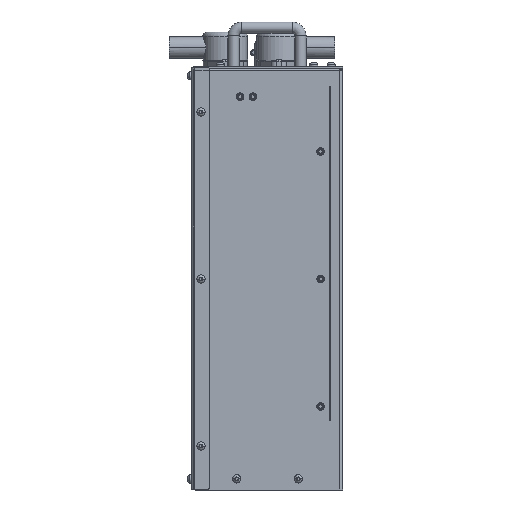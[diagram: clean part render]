
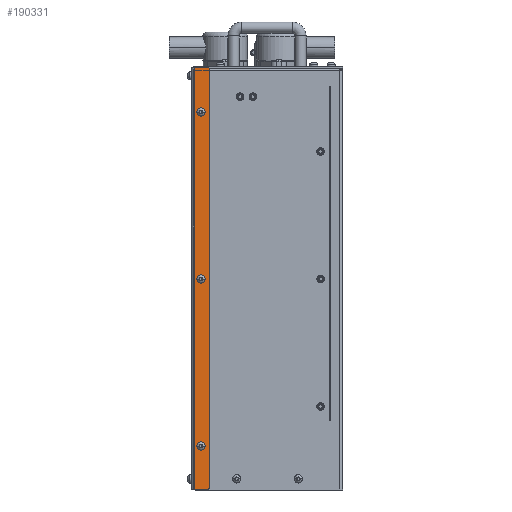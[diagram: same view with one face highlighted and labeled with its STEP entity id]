
A CAD part, left-side view. The second image highlights one B-rep face of the part: STEP entity #190331.
In plain terms, the highlighted planar face has unit normal (-1, 0, 0).
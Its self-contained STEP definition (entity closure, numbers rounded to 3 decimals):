
#5842 = DIRECTION ( 'NONE',  ( 0., 1., 0. ) ) ;
#8820 = DIRECTION ( 'NONE',  ( 1., 0., 0. ) ) ;
#12984 = LINE ( 'NONE', #150596, #265106 ) ;
#17766 = DIRECTION ( 'NONE',  ( 0., 0., 1. ) ) ;
#26177 = CARTESIAN_POINT ( 'NONE',  ( -203.642, 76.593, -4.716 ) ) ;
#37941 = AXIS2_PLACEMENT_3D ( 'NONE', #41532, #261649, #67271 ) ;
#39007 = DIRECTION ( 'NONE',  ( 0., 1., 0. ) ) ;
#41532 = CARTESIAN_POINT ( 'NONE',  ( -203.642, 71.85, -194.716 ) ) ;
#43713 = VERTEX_POINT ( 'NONE', #333738 ) ;
#52226 = CARTESIAN_POINT ( 'NONE',  ( -203.642, 62.282, 234.328 ) ) ;
#53144 = EDGE_LOOP ( 'NONE', ( #248991, #288050 ) ) ;
#60395 = DIRECTION ( 'NONE',  ( -1., 0., 0. ) ) ;
#65985 = EDGE_CURVE ( 'NONE', #43713, #75185, #129139, .T. ) ;
#67271 = DIRECTION ( 'NONE',  ( 0., 1., 0. ) ) ;
#70206 = VERTEX_POINT ( 'NONE', #26177 ) ;
#71111 = EDGE_CURVE ( 'NONE', #106286, #318113, #12984, .T. ) ;
#72976 = VERTEX_POINT ( 'NONE', #97419 ) ;
#74179 = CARTESIAN_POINT ( 'NONE',  ( -203.642, 79.092, 236.328 ) ) ;
#75185 = VERTEX_POINT ( 'NONE', #294927 ) ;
#77566 = VERTEX_POINT ( 'NONE', #259742 ) ;
#84211 = EDGE_LOOP ( 'NONE', ( #177453, #216541, #347387, #87100, #324210, #230335 ) ) ;
#86936 = DIRECTION ( 'NONE',  ( 0., -1., 0. ) ) ;
#87100 = ORIENTED_EDGE ( 'NONE', *, *, #283829, .F. ) ;
#87218 = VERTEX_POINT ( 'NONE', #149620 ) ;
#90758 = LINE ( 'NONE', #118229, #227480 ) ;
#97419 = CARTESIAN_POINT ( 'NONE',  ( -203.642, 76.593, -194.716 ) ) ;
#106286 = VERTEX_POINT ( 'NONE', #151773 ) ;
#111555 = FACE_BOUND ( 'NONE', #189826, .T. ) ;
#113376 = FACE_OUTER_BOUND ( 'NONE', #84211, .T. ) ;
#114603 = CIRCLE ( 'NONE', #307825, 4.743 ) ;
#118025 = CARTESIAN_POINT ( 'NONE',  ( -203.642, 64.282, 234.328 ) ) ;
#118229 = CARTESIAN_POINT ( 'NONE',  ( -203.642, 62.282, -244.172 ) ) ;
#119086 = ORIENTED_EDGE ( 'NONE', *, *, #161769, .F. ) ;
#119232 = AXIS2_PLACEMENT_3D ( 'NONE', #176634, #288489, #39007 ) ;
#119518 = VERTEX_POINT ( 'NONE', #273264 ) ;
#122695 = DIRECTION ( 'NONE',  ( 0., 1., 0. ) ) ;
#129139 = CIRCLE ( 'NONE', #252196, 2. ) ;
#134554 = VECTOR ( 'NONE', #17766, 1000. ) ;
#136111 = VERTEX_POINT ( 'NONE', #136308 ) ;
#136308 = CARTESIAN_POINT ( 'NONE',  ( -203.642, 67.106, -4.716 ) ) ;
#143009 = CARTESIAN_POINT ( 'NONE',  ( -203.642, 71.85, 185.284 ) ) ;
#145151 = CARTESIAN_POINT ( 'NONE',  ( -203.642, 71.85, -4.716 ) ) ;
#148167 = DIRECTION ( 'NONE',  ( -1., 0., 0. ) ) ;
#148168 = DIRECTION ( 'NONE',  ( 0., -1., 0. ) ) ;
#149620 = CARTESIAN_POINT ( 'NONE',  ( -203.642, 67.106, -194.716 ) ) ;
#150596 = CARTESIAN_POINT ( 'NONE',  ( -203.642, 80.692, 236.328 ) ) ;
#151773 = CARTESIAN_POINT ( 'NONE',  ( -203.642, 64.282, 236.328 ) ) ;
#153871 = AXIS2_PLACEMENT_3D ( 'NONE', #256344, #148167, #283938 ) ;
#155017 = DIRECTION ( 'NONE',  ( 1., 0., 0. ) ) ;
#157681 = EDGE_CURVE ( 'NONE', #72976, #87218, #201808, .T. ) ;
#161769 = EDGE_CURVE ( 'NONE', #77566, #119518, #241929, .T. ) ;
#176634 = CARTESIAN_POINT ( 'NONE',  ( -203.642, 71.85, 185.284 ) ) ;
#177453 = ORIENTED_EDGE ( 'NONE', *, *, #294496, .T. ) ;
#184268 = DIRECTION ( 'NONE',  ( 0., 1., 0. ) ) ;
#187558 = DIRECTION ( 'NONE',  ( 0., -1., 0. ) ) ;
#189363 = DIRECTION ( 'NONE',  ( -1., 0., 0. ) ) ;
#189826 = EDGE_LOOP ( 'NONE', ( #274680, #282220 ) ) ;
#189846 = EDGE_CURVE ( 'NONE', #136111, #70206, #114603, .T. ) ;
#190331 = ADVANCED_FACE ( 'NONE', ( #278494, #362763, #111555, #113376 ), #338859, .F. ) ;
#201808 = CIRCLE ( 'NONE', #37941, 4.743 ) ;
#205946 = DIRECTION ( 'NONE',  ( -1., 0., 0. ) ) ;
#216541 = ORIENTED_EDGE ( 'NONE', *, *, #342609, .T. ) ;
#217678 = AXIS2_PLACEMENT_3D ( 'NONE', #118025, #205946, #86936 ) ;
#221246 = EDGE_CURVE ( 'NONE', #119518, #77566, #288022, .T. ) ;
#223585 = AXIS2_PLACEMENT_3D ( 'NONE', #143009, #60395, #122695 ) ;
#223801 = CIRCLE ( 'NONE', #217678, 2. ) ;
#224217 = LINE ( 'NONE', #251739, #337100 ) ;
#226053 = AXIS2_PLACEMENT_3D ( 'NONE', #236029, #8820, #148168 ) ;
#227480 = VECTOR ( 'NONE', #316273, 1000. ) ;
#230335 = ORIENTED_EDGE ( 'NONE', *, *, #65985, .T. ) ;
#236029 = CARTESIAN_POINT ( 'NONE',  ( -203.642, 82.282, -3.922 ) ) ;
#241929 = CIRCLE ( 'NONE', #119232, 4.743 ) ;
#243702 = EDGE_CURVE ( 'NONE', #70206, #136111, #271102, .T. ) ;
#246223 = CIRCLE ( 'NONE', #310614, 4.743 ) ;
#246695 = VERTEX_POINT ( 'NONE', #362296 ) ;
#248991 = ORIENTED_EDGE ( 'NONE', *, *, #189846, .F. ) ;
#251739 = CARTESIAN_POINT ( 'NONE',  ( -203.642, 79.092, -3.922 ) ) ;
#252196 = AXIS2_PLACEMENT_3D ( 'NONE', #301288, #189363, #187558 ) ;
#256344 = CARTESIAN_POINT ( 'NONE',  ( -203.642, 71.85, -4.716 ) ) ;
#256956 = DIRECTION ( 'NONE',  ( -1., 0., 0. ) ) ;
#259742 = CARTESIAN_POINT ( 'NONE',  ( -203.642, 67.106, 185.284 ) ) ;
#261439 = CARTESIAN_POINT ( 'NONE',  ( -203.642, 71.85, -194.716 ) ) ;
#261649 = DIRECTION ( 'NONE',  ( 1., 0., 0. ) ) ;
#265106 = VECTOR ( 'NONE', #288138, 1000. ) ;
#268990 = LINE ( 'NONE', #294774, #134554 ) ;
#271102 = CIRCLE ( 'NONE', #153871, 4.743 ) ;
#272848 = VERTEX_POINT ( 'NONE', #52226 ) ;
#273264 = CARTESIAN_POINT ( 'NONE',  ( -203.642, 76.593, 185.284 ) ) ;
#274680 = ORIENTED_EDGE ( 'NONE', *, *, #322470, .T. ) ;
#278494 = FACE_BOUND ( 'NONE', #318833, .T. ) ;
#281094 = DIRECTION ( 'NONE',  ( 0., 0., 1. ) ) ;
#282220 = ORIENTED_EDGE ( 'NONE', *, *, #157681, .T. ) ;
#283829 = EDGE_CURVE ( 'NONE', #246695, #318113, #224217, .T. ) ;
#283938 = DIRECTION ( 'NONE',  ( 0., 1., 0. ) ) ;
#288022 = CIRCLE ( 'NONE', #223585, 4.743 ) ;
#288050 = ORIENTED_EDGE ( 'NONE', *, *, #243702, .F. ) ;
#288138 = DIRECTION ( 'NONE',  ( 0., 1., 0. ) ) ;
#288489 = DIRECTION ( 'NONE',  ( -1., 0., 0. ) ) ;
#294496 = EDGE_CURVE ( 'NONE', #75185, #272848, #268990, .T. ) ;
#294774 = CARTESIAN_POINT ( 'NONE',  ( -203.642, 62.282, 236.328 ) ) ;
#294927 = CARTESIAN_POINT ( 'NONE',  ( -203.642, 62.282, -242.172 ) ) ;
#301288 = CARTESIAN_POINT ( 'NONE',  ( -203.642, 64.282, -242.172 ) ) ;
#307825 = AXIS2_PLACEMENT_3D ( 'NONE', #145151, #256956, #5842 ) ;
#309157 = EDGE_CURVE ( 'NONE', #246695, #43713, #90758, .T. ) ;
#310614 = AXIS2_PLACEMENT_3D ( 'NONE', #261439, #155017, #184268 ) ;
#316273 = DIRECTION ( 'NONE',  ( 0., -1., 0. ) ) ;
#318113 = VERTEX_POINT ( 'NONE', #74179 ) ;
#318833 = EDGE_LOOP ( 'NONE', ( #119086, #337352 ) ) ;
#322470 = EDGE_CURVE ( 'NONE', #87218, #72976, #246223, .T. ) ;
#324210 = ORIENTED_EDGE ( 'NONE', *, *, #309157, .T. ) ;
#333738 = CARTESIAN_POINT ( 'NONE',  ( -203.642, 64.282, -244.172 ) ) ;
#337100 = VECTOR ( 'NONE', #281094, 1000. ) ;
#337352 = ORIENTED_EDGE ( 'NONE', *, *, #221246, .F. ) ;
#338859 = PLANE ( 'NONE',  #226053 ) ;
#342609 = EDGE_CURVE ( 'NONE', #272848, #106286, #223801, .T. ) ;
#347387 = ORIENTED_EDGE ( 'NONE', *, *, #71111, .T. ) ;
#362296 = CARTESIAN_POINT ( 'NONE',  ( -203.642, 79.092, -244.172 ) ) ;
#362763 = FACE_BOUND ( 'NONE', #53144, .T. ) ;
